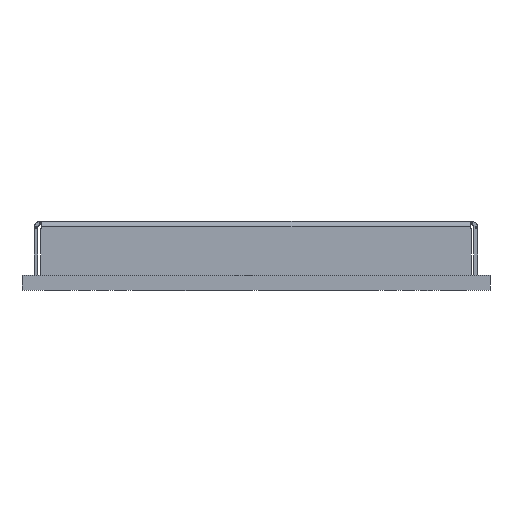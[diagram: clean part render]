
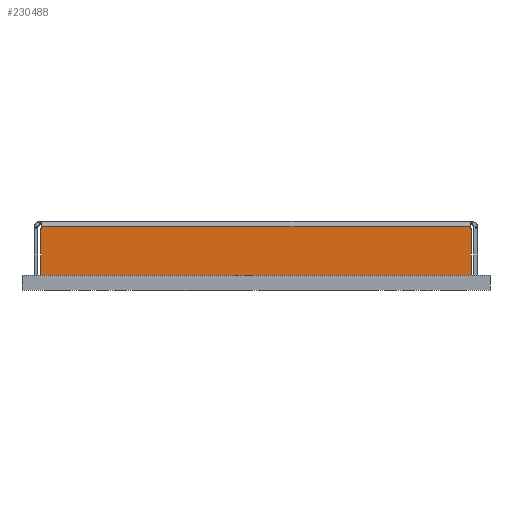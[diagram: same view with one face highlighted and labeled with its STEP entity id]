
A CAD part, front view. The second image highlights one B-rep face of the part: STEP entity #230488.
In plain terms, the highlighted planar face has unit normal (0, -1, 0).
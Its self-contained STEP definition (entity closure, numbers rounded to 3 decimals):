
#4103 = CARTESIAN_POINT ( 'NONE',  ( 0.514, 0.355, 0. ) ) ;
#4447 = DIRECTION ( 'NONE',  ( 0., 0., 1. ) ) ;
#6398 = VECTOR ( 'NONE', #199358, 1000. ) ;
#23696 = EDGE_CURVE ( 'NONE', #99315, #133869, #238476, .T. ) ;
#27308 = CARTESIAN_POINT ( 'NONE',  ( 0.543, 0.355, 1.325 ) ) ;
#28112 = VECTOR ( 'NONE', #235813, 1000. ) ;
#29650 = CARTESIAN_POINT ( 'NONE',  ( 12.482, 0.355, 1.3 ) ) ;
#30228 = CARTESIAN_POINT ( 'NONE',  ( 12.453, 0.355, 1.325 ) ) ;
#30506 = CARTESIAN_POINT ( 'NONE',  ( 12.453, 0.355, 1.35 ) ) ;
#30899 = ORIENTED_EDGE ( 'NONE', *, *, #262216, .T. ) ;
#38483 = CARTESIAN_POINT ( 'NONE',  ( 0.514, 0.355, 1.3 ) ) ;
#38707 = CARTESIAN_POINT ( 'NONE',  ( 0.543, 0.355, 1.5 ) ) ;
#43167 = DIRECTION ( 'NONE',  ( -1., 0., 0. ) ) ;
#46512 = CARTESIAN_POINT ( 'NONE',  ( 0.543, 0.355, 1.35 ) ) ;
#48244 = CARTESIAN_POINT ( 'NONE',  ( 12.482, 0.355, 1.5 ) ) ;
#50966 = VECTOR ( 'NONE', #239694, 1000. ) ;
#54973 = VERTEX_POINT ( 'NONE', #4103 ) ;
#57252 = EDGE_LOOP ( 'NONE', ( #30899, #189499, #123744, #174693, #248335, #84315, #260907, #240833, #275008, #109906 ) ) ;
#61601 = VERTEX_POINT ( 'NONE', #29650 ) ;
#62141 = VECTOR ( 'NONE', #109479, 1000. ) ;
#63368 = LINE ( 'NONE', #38707, #50966 ) ;
#67002 = EDGE_CURVE ( 'NONE', #131638, #61601, #220272, .T. ) ;
#68941 = AXIS2_PLACEMENT_3D ( 'NONE', #115188, #253647, #4447 ) ;
#78026 = PLANE ( 'NONE',  #174806 ) ;
#81543 = EDGE_CURVE ( 'NONE', #54973, #131638, #222591, .T. ) ;
#84315 = ORIENTED_EDGE ( 'NONE', *, *, #250571, .T. ) ;
#92851 = DIRECTION ( 'NONE',  ( 0., 0., -1. ) ) ;
#95245 = EDGE_CURVE ( 'NONE', #133869, #201737, #63368, .T. ) ;
#95320 = CARTESIAN_POINT ( 'NONE',  ( 12.482, 0.355, 0. ) ) ;
#95597 = FACE_OUTER_BOUND ( 'NONE', #57252, .T. ) ;
#98468 = DIRECTION ( 'NONE',  ( 0., 0., 1. ) ) ;
#99315 = VERTEX_POINT ( 'NONE', #30506 ) ;
#100636 = VECTOR ( 'NONE', #115532, 1000. ) ;
#104891 = DIRECTION ( 'NONE',  ( 0., 1., 0. ) ) ;
#109479 = DIRECTION ( 'NONE',  ( 0., 0., 1. ) ) ;
#109906 = ORIENTED_EDGE ( 'NONE', *, *, #163103, .T. ) ;
#115188 = CARTESIAN_POINT ( 'NONE',  ( 0.518, 0.355, 1.325 ) ) ;
#115243 = CIRCLE ( 'NONE', #68941, 0.025 ) ;
#115532 = DIRECTION ( 'NONE',  ( -1., 0., 0. ) ) ;
#121530 = DIRECTION ( 'NONE',  ( 0., 1., 0. ) ) ;
#121991 = CARTESIAN_POINT ( 'NONE',  ( 12.453, 0.355, 1.5 ) ) ;
#123744 = ORIENTED_EDGE ( 'NONE', *, *, #95245, .T. ) ;
#128028 = CARTESIAN_POINT ( 'NONE',  ( 12.478, 0.355, 1.325 ) ) ;
#128974 = EDGE_CURVE ( 'NONE', #165833, #240896, #274460, .T. ) ;
#130736 = EDGE_CURVE ( 'NONE', #201737, #165833, #115243, .T. ) ;
#131638 = VERTEX_POINT ( 'NONE', #95320 ) ;
#133869 = VERTEX_POINT ( 'NONE', #46512 ) ;
#136310 = CARTESIAN_POINT ( 'NONE',  ( 0.514, 0.355, 1.5 ) ) ;
#142625 = VERTEX_POINT ( 'NONE', #30228 ) ;
#142780 = DIRECTION ( 'NONE',  ( 1., 0., 0. ) ) ;
#143760 = VERTEX_POINT ( 'NONE', #278688 ) ;
#149755 = VECTOR ( 'NONE', #142780, 1000. ) ;
#153982 = VECTOR ( 'NONE', #92851, 1000. ) ;
#158201 = LINE ( 'NONE', #136310, #153982 ) ;
#163103 = EDGE_CURVE ( 'NONE', #143760, #142625, #191750, .T. ) ;
#165833 = VERTEX_POINT ( 'NONE', #276323 ) ;
#174693 = ORIENTED_EDGE ( 'NONE', *, *, #130736, .T. ) ;
#174806 = AXIS2_PLACEMENT_3D ( 'NONE', #277655, #121530, #98468 ) ;
#177677 = AXIS2_PLACEMENT_3D ( 'NONE', #128028, #104891, #285584 ) ;
#189499 = ORIENTED_EDGE ( 'NONE', *, *, #23696, .T. ) ;
#191750 = CIRCLE ( 'NONE', #177677, 0.025 ) ;
#199358 = DIRECTION ( 'NONE',  ( 1., 0., 0. ) ) ;
#201737 = VERTEX_POINT ( 'NONE', #27308 ) ;
#215428 = LINE ( 'NONE', #121991, #28112 ) ;
#220272 = LINE ( 'NONE', #48244, #62141 ) ;
#222591 = LINE ( 'NONE', #226907, #6398 ) ;
#226907 = CARTESIAN_POINT ( 'NONE',  ( 0.343, 0.355, 0. ) ) ;
#230488 = ADVANCED_FACE ( 'NONE', ( #95597 ), #78026, .F. ) ;
#232430 = VECTOR ( 'NONE', #43167, 1000. ) ;
#235813 = DIRECTION ( 'NONE',  ( 0., 0., 1. ) ) ;
#238476 = LINE ( 'NONE', #242772, #232430 ) ;
#239694 = DIRECTION ( 'NONE',  ( 0., 0., -1. ) ) ;
#240833 = ORIENTED_EDGE ( 'NONE', *, *, #67002, .T. ) ;
#240896 = VERTEX_POINT ( 'NONE', #38483 ) ;
#242772 = CARTESIAN_POINT ( 'NONE',  ( 0.543, 0.355, 1.35 ) ) ;
#248335 = ORIENTED_EDGE ( 'NONE', *, *, #128974, .T. ) ;
#250571 = EDGE_CURVE ( 'NONE', #240896, #54973, #158201, .T. ) ;
#253647 = DIRECTION ( 'NONE',  ( 0., 1., 0. ) ) ;
#253798 = LINE ( 'NONE', #268899, #149755 ) ;
#254945 = EDGE_CURVE ( 'NONE', #143760, #61601, #253798, .T. ) ;
#260907 = ORIENTED_EDGE ( 'NONE', *, *, #81543, .T. ) ;
#262216 = EDGE_CURVE ( 'NONE', #142625, #99315, #215428, .T. ) ;
#268899 = CARTESIAN_POINT ( 'NONE',  ( 0.343, 0.355, 1.3 ) ) ;
#270225 = CARTESIAN_POINT ( 'NONE',  ( 0.343, 0.355, 1.3 ) ) ;
#274460 = LINE ( 'NONE', #270225, #100636 ) ;
#275008 = ORIENTED_EDGE ( 'NONE', *, *, #254945, .F. ) ;
#276323 = CARTESIAN_POINT ( 'NONE',  ( 0.518, 0.355, 1.3 ) ) ;
#277655 = CARTESIAN_POINT ( 'NONE',  ( 0.343, 0.355, 1.5 ) ) ;
#278688 = CARTESIAN_POINT ( 'NONE',  ( 12.478, 0.355, 1.3 ) ) ;
#285584 = DIRECTION ( 'NONE',  ( 0., 0., 1. ) ) ;
